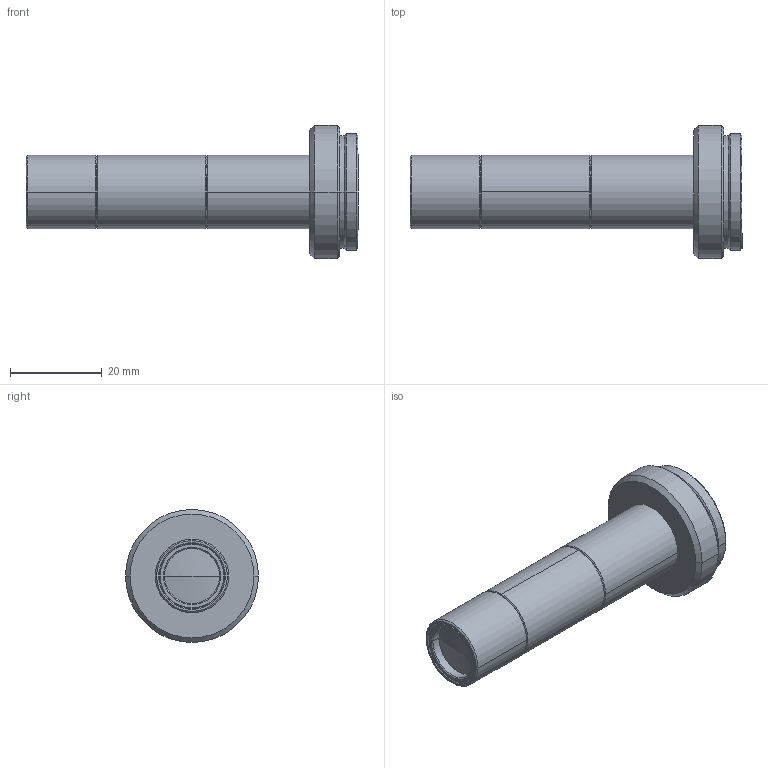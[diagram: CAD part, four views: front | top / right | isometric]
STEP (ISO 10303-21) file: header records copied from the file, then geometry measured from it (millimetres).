
FILE_DESCRIPTION (( 'STEP AP203' ), '1' );
FILE_NAME ('APT4-65.STEP', '2020-07-28T07:18:16', ( '' ), ( '' ), 'SwSTEP 2.0', 'SolidWorks 2020', '' );
FILE_SCHEMA (( 'CONFIG_CONTROL_DESIGN' ));
Length unit declared in the file: millimetre
Products named in the file (1): APT4-65
Bounding box: 72.37 x 29 x 29 mm (x, y, z)
Volume: 15414.3 mm3; surface area: 7404.3 mm2
Topology: 3 solids, 3 shells, 98 faces, 190 edges, 110 vertices
Faces by surface type: cone 48, cylinder 30, plane 16, sphere 4
Entity records: 2559 total; most frequent: DIRECTION 500, CARTESIAN_POINT 399, ORIENTED_EDGE 380, AXIS2_PLACEMENT_3D 211, EDGE_CURVE 190, CIRCLE 112, EDGE_LOOP 110, VERTEX_POINT 110
